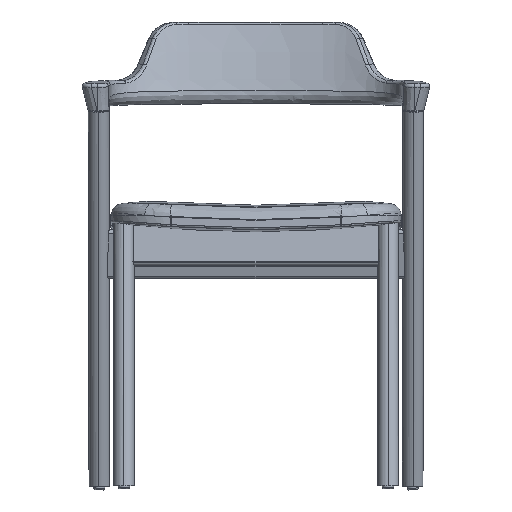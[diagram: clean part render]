
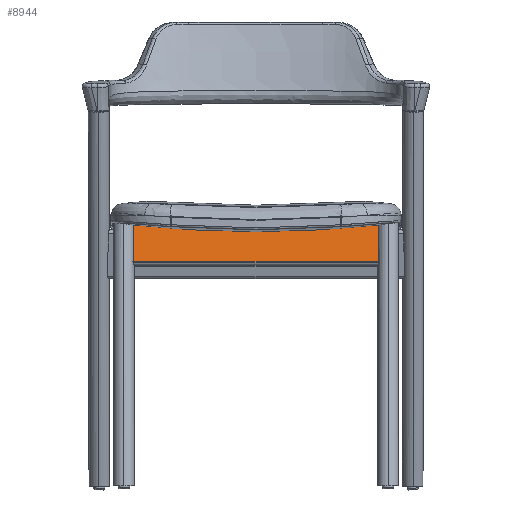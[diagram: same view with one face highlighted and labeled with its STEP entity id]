
A CAD part, top view. The second image highlights one B-rep face of the part: STEP entity #8944.
In plain terms, the highlighted planar face has unit normal (0, 0.174, 0.985).
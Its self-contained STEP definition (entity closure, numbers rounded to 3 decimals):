
#1293 = CARTESIAN_POINT ( 'NONE',  ( 0., 404.173, -75.832 ) ) ;
#2735 = CARTESIAN_POINT ( 'NONE',  ( 197.5, 356.607, -67.445 ) ) ;
#2828 = EDGE_CURVE ( 'NONE', #12220, #13705, #10206, .T. ) ;
#2949 = PLANE ( 'NONE',  #9383 ) ;
#3341 = EDGE_CURVE ( 'NONE', #16446, #13705, #14863, .T. ) ;
#4700 = ORIENTED_EDGE ( 'NONE', *, *, #21930, .T. ) ;
#5392 = CARTESIAN_POINT ( 'NONE',  ( 131.899, 407.779, -76.468 ) ) ;
#5502 = EDGE_CURVE ( 'NONE', #21718, #16446, #14890, .T. ) ;
#5515 = ORIENTED_EDGE ( 'NONE', *, *, #5502, .T. ) ;
#5712 = ORIENTED_EDGE ( 'NONE', *, *, #21096, .T. ) ;
#6630 = CARTESIAN_POINT ( 'NONE',  ( 197.5, 420.62, -78.732 ) ) ;
#7005 = CARTESIAN_POINT ( 'NONE',  ( 0., 404.173, -75.832 ) ) ;
#7693 =( BOUNDED_CURVE ( )  B_SPLINE_CURVE ( 3, ( #1293, #11544, #15380, #10159 ),
 .UNSPECIFIED., .F., .F. ) 
 B_SPLINE_CURVE_WITH_KNOTS ( ( 4, 4 ),
 ( 0., 0.11 ),
 .UNSPECIFIED. ) 
 CURVE ( )  GEOMETRIC_REPRESENTATION_ITEM ( )  RATIONAL_B_SPLINE_CURVE ( ( 1., 0.999, 0.999, 1. ) ) 
 REPRESENTATION_ITEM ( '' )  );
#8531 =( BOUNDED_CURVE ( )  B_SPLINE_CURVE ( 3, ( #17790, #5392, #12443, #19399 ),
 .UNSPECIFIED., .F., .T. ) 
 B_SPLINE_CURVE_WITH_KNOTS ( ( 4, 4 ),
 ( 6.173, 6.283 ),
 .UNSPECIFIED. ) 
 CURVE ( )  GEOMETRIC_REPRESENTATION_ITEM ( )  RATIONAL_B_SPLINE_CURVE ( ( 1., 0.999, 0.999, 1. ) ) 
 REPRESENTATION_ITEM ( '' )  );
#8830 = VECTOR ( 'NONE', #20956, 1000. ) ;
#8944 = ADVANCED_FACE ( 'NONE', ( #15079 ), #2949, .F. ) ;
#9383 = AXIS2_PLACEMENT_3D ( 'NONE', #13205, #9511, #15196 ) ;
#9511 = DIRECTION ( 'NONE',  ( 0., -0.174, -0.985 ) ) ;
#9646 = DIRECTION ( 'NONE',  ( 1., 0., 0. ) ) ;
#10159 = CARTESIAN_POINT ( 'NONE',  ( -197.5, 414.98, -77.738 ) ) ;
#10206 = LINE ( 'NONE', #6630, #8830 ) ;
#10849 = ORIENTED_EDGE ( 'NONE', *, *, #2828, .F. ) ;
#11544 = CARTESIAN_POINT ( 'NONE',  ( -65.999, 404.173, -75.832 ) ) ;
#11760 = CARTESIAN_POINT ( 'NONE',  ( -197.5, 414.98, -77.738 ) ) ;
#11826 = VECTOR ( 'NONE', #16626, 1000. ) ;
#12220 = VERTEX_POINT ( 'NONE', #20356 ) ;
#12443 = CARTESIAN_POINT ( 'NONE',  ( 65.999, 404.173, -75.832 ) ) ;
#13205 = CARTESIAN_POINT ( 'NONE',  ( 197.5, 420.62, -78.732 ) ) ;
#13379 = VERTEX_POINT ( 'NONE', #7005 ) ;
#13705 = VERTEX_POINT ( 'NONE', #21543 ) ;
#14863 = LINE ( 'NONE', #2735, #21382 ) ;
#14890 = LINE ( 'NONE', #21938, #11826 ) ;
#15079 = FACE_OUTER_BOUND ( 'NONE', #19857, .T. ) ;
#15196 = DIRECTION ( 'NONE',  ( 0., 0.985, -0.174 ) ) ;
#15380 = CARTESIAN_POINT ( 'NONE',  ( -131.899, 407.779, -76.468 ) ) ;
#16446 = VERTEX_POINT ( 'NONE', #22135 ) ;
#16626 = DIRECTION ( 'NONE',  ( 0., -0.985, 0.174 ) ) ;
#17790 = CARTESIAN_POINT ( 'NONE',  ( 197.5, 414.98, -77.738 ) ) ;
#19399 = CARTESIAN_POINT ( 'NONE',  ( 0., 404.173, -75.832 ) ) ;
#19857 = EDGE_LOOP ( 'NONE', ( #10849, #4700, #5712, #5515, #21104 ) ) ;
#20356 = CARTESIAN_POINT ( 'NONE',  ( 197.5, 414.98, -77.738 ) ) ;
#20956 = DIRECTION ( 'NONE',  ( 0., -0.985, 0.174 ) ) ;
#21096 = EDGE_CURVE ( 'NONE', #13379, #21718, #7693, .T. ) ;
#21104 = ORIENTED_EDGE ( 'NONE', *, *, #3341, .T. ) ;
#21382 = VECTOR ( 'NONE', #9646, 1000. ) ;
#21543 = CARTESIAN_POINT ( 'NONE',  ( 197.5, 356.607, -67.445 ) ) ;
#21718 = VERTEX_POINT ( 'NONE', #11760 ) ;
#21930 = EDGE_CURVE ( 'NONE', #12220, #13379, #8531, .T. ) ;
#21938 = CARTESIAN_POINT ( 'NONE',  ( -197.5, 420.62, -78.732 ) ) ;
#22135 = CARTESIAN_POINT ( 'NONE',  ( -197.5, 356.607, -67.445 ) ) ;
